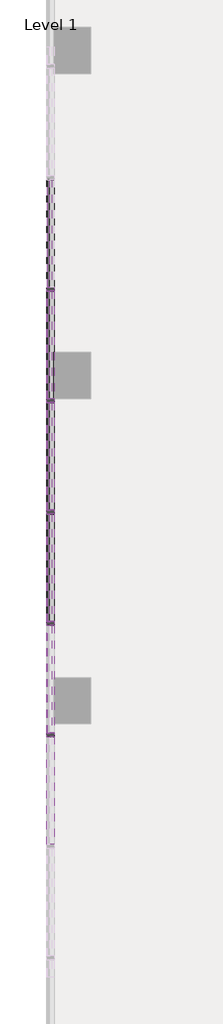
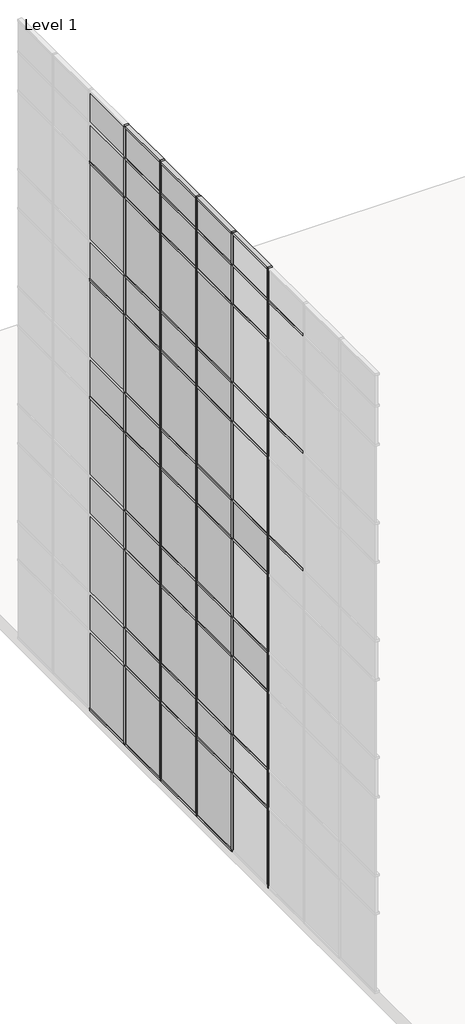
# One storey, part 3 of 23: 84 members, 46 plates.
"""IFC4 building model written with IfcOpenShell, lengths in millimetres."""

from ifc_helpers import new_model, si_unit, origin, place, context, project, spatial, transform, mapped, element, save
from components import member_f92b8aa2, member_810865a4, member_6d5c3e5e, member_9764dd38, system_panel_glazed_14c75400, system_panel_solid_5dfe6f83, system_panel_solid_e25e2004, system_panel_solid_b7551183

model = new_model("IFC4")

# Units and contexts
model_context = context("Model", 3, world=origin())
ifc_project = project(units=[si_unit("LENGTHUNIT", "METRE", prefix="MILLI")], contexts=[model_context])

# Site, building, storey
site = spatial("IfcSite", under=ifc_project)
building = spatial("IfcBuilding", under=site)
storey = spatial("IfcBuildingStorey", under=building, Name="Level 1", Elevation=0.0)

# Members
placement = place(None, origin())
member_shape = member_f92b8aa2(model_context)
element("IfcMember", 1, ObjectType="Rectangular Mullion : 2.5\" x 5\" rectangular", at=placement, inside=storey, context=model_context, shape_type="MappedRepresentation", body=[
    mapped(member_shape, transform((-68724.2599961, -14928.1853492, 18288.0), x_axis=(0.0, 1.0, 0.0), y_axis=(1.0, 0.0, 0.0), z_axis=(0.0, 0.0, -1.0))),
])
element("IfcMember", 2, ObjectType="Rectangular Mullion : 2.5\" x 5\" rectangular", at=placement, inside=storey, context=model_context, shape_type="MappedRepresentation", body=[
    mapped(member_shape, transform((-68724.2599961, -13099.3853492, 18288.0), x_axis=(0.0, 1.0, 0.0), y_axis=(1.0, 0.0, 0.0), z_axis=(0.0, 0.0, -1.0))),
])
element("IfcMember", 3, ObjectType="Rectangular Mullion : 2.5\" x 5\" rectangular", at=placement, inside=storey, context=model_context, shape_type="MappedRepresentation", body=[
    mapped(member_shape, transform((-68724.2599961, -11270.5853492, 18288.0), x_axis=(0.0, 1.0, 0.0), y_axis=(1.0, 0.0, 0.0), z_axis=(0.0, 0.0, -1.0))),
])
element("IfcMember", 4, ObjectType="Rectangular Mullion : 2.5\" x 5\" rectangular", at=placement, inside=storey, context=model_context, shape_type="MappedRepresentation", body=[
    mapped(member_shape, transform((-68724.2599961, -9441.7853492, 18288.0), x_axis=(0.0, 1.0, 0.0), y_axis=(1.0, 0.0, 0.0), z_axis=(0.0, 0.0, -1.0))),
])
element("IfcMember", 5, ObjectType="Rectangular Mullion : 2.5\" x 5\" rectangular", at=placement, inside=storey, context=model_context, shape_type="MappedRepresentation", body=[
    mapped(member_shape, transform((-68724.2599961, -7612.9853492, 18288.0), x_axis=(0.0, 1.0, 0.0), y_axis=(1.0, 0.0, 0.0), z_axis=(0.0, 0.0, -1.0))),
])
member_2_shape = member_810865a4(model_context)
element("IfcMember", 6, ObjectType="Rectangular Mullion : 2.5\" x 5\" rectangular", at=placement, inside=storey, context=model_context, shape_type="MappedRepresentation", body=[
    mapped(member_2_shape, transform((-68724.2599961, -14928.1853492, 3657.6), x_axis=(0.0, 1.0, 0.0), y_axis=(1.0, 0.0, 0.0), z_axis=(0.0, 0.0, -1.0))),
])
element("IfcMember", 7, ObjectType="Rectangular Mullion : 2.5\" x 5\" rectangular", at=placement, inside=storey, context=model_context, shape_type="MappedRepresentation", body=[
    mapped(member_2_shape, transform((-68724.2599961, -13099.3853492, 3657.6), x_axis=(0.0, 1.0, 0.0), y_axis=(1.0, 0.0, 0.0), z_axis=(0.0, 0.0, -1.0))),
])
element("IfcMember", 8, ObjectType="Rectangular Mullion : 2.5\" x 5\" rectangular", at=placement, inside=storey, context=model_context, shape_type="MappedRepresentation", body=[
    mapped(member_2_shape, transform((-68724.2599961, -11270.5853492, 3657.6), x_axis=(0.0, 1.0, 0.0), y_axis=(1.0, 0.0, 0.0), z_axis=(0.0, 0.0, -1.0))),
])
element("IfcMember", 9, ObjectType="Rectangular Mullion : 2.5\" x 5\" rectangular", at=placement, inside=storey, context=model_context, shape_type="MappedRepresentation", body=[
    mapped(member_2_shape, transform((-68724.2599961, -9441.7853492, 3657.6), x_axis=(0.0, 1.0, 0.0), y_axis=(1.0, 0.0, 0.0), z_axis=(0.0, 0.0, -1.0))),
])
element("IfcMember", 10, ObjectType="Rectangular Mullion : 2.5\" x 5\" rectangular", at=placement, inside=storey, context=model_context, shape_type="MappedRepresentation", body=[
    mapped(member_2_shape, transform((-68724.2599961, -7612.9853492, 3657.6), x_axis=(0.0, 1.0, 0.0), y_axis=(1.0, 0.0, 0.0), z_axis=(0.0, 0.0, -1.0))),
])
element("IfcMember", 11, ObjectType="Rectangular Mullion : 2.5\" x 5\" rectangular", at=placement, inside=storey, context=model_context, shape_type="MappedRepresentation", body=[
    mapped(member_2_shape, transform((-68724.2599961, -14928.1853492, 7315.2), x_axis=(0.0, 1.0, 0.0), y_axis=(1.0, 0.0, 0.0), z_axis=(0.0, 0.0, -1.0))),
])
element("IfcMember", 12, ObjectType="Rectangular Mullion : 2.5\" x 5\" rectangular", at=placement, inside=storey, context=model_context, shape_type="MappedRepresentation", body=[
    mapped(member_2_shape, transform((-68724.2599961, -13099.3853492, 7315.2), x_axis=(0.0, 1.0, 0.0), y_axis=(1.0, 0.0, 0.0), z_axis=(0.0, 0.0, -1.0))),
])
element("IfcMember", 13, ObjectType="Rectangular Mullion : 2.5\" x 5\" rectangular", at=placement, inside=storey, context=model_context, shape_type="MappedRepresentation", body=[
    mapped(member_2_shape, transform((-68724.2599961, -11270.5853492, 7315.2), x_axis=(0.0, 1.0, 0.0), y_axis=(1.0, 0.0, 0.0), z_axis=(0.0, 0.0, -1.0))),
])
element("IfcMember", 14, ObjectType="Rectangular Mullion : 2.5\" x 5\" rectangular", at=placement, inside=storey, context=model_context, shape_type="MappedRepresentation", body=[
    mapped(member_2_shape, transform((-68724.2599961, -9441.7853492, 7315.2), x_axis=(0.0, 1.0, 0.0), y_axis=(1.0, 0.0, 0.0), z_axis=(0.0, 0.0, -1.0))),
])
element("IfcMember", 15, ObjectType="Rectangular Mullion : 2.5\" x 5\" rectangular", at=placement, inside=storey, context=model_context, shape_type="MappedRepresentation", body=[
    mapped(member_2_shape, transform((-68724.2599961, -7612.9853492, 7315.2), x_axis=(0.0, 1.0, 0.0), y_axis=(1.0, 0.0, 0.0), z_axis=(0.0, 0.0, -1.0))),
])
element("IfcMember", 16, ObjectType="Rectangular Mullion : 2.5\" x 5\" rectangular", at=placement, inside=storey, context=model_context, shape_type="MappedRepresentation", body=[
    mapped(member_2_shape, transform((-68724.2599961, -14928.1853492, 10972.8), x_axis=(0.0, 1.0, 0.0), y_axis=(1.0, 0.0, 0.0), z_axis=(0.0, 0.0, -1.0))),
])
element("IfcMember", 17, ObjectType="Rectangular Mullion : 2.5\" x 5\" rectangular", at=placement, inside=storey, context=model_context, shape_type="MappedRepresentation", body=[
    mapped(member_2_shape, transform((-68724.2599961, -13099.3853492, 10972.8), x_axis=(0.0, 1.0, 0.0), y_axis=(1.0, 0.0, 0.0), z_axis=(0.0, 0.0, -1.0))),
])
element("IfcMember", 18, ObjectType="Rectangular Mullion : 2.5\" x 5\" rectangular", at=placement, inside=storey, context=model_context, shape_type="MappedRepresentation", body=[
    mapped(member_2_shape, transform((-68724.2599961, -11270.5853492, 10972.8), x_axis=(0.0, 1.0, 0.0), y_axis=(1.0, 0.0, 0.0), z_axis=(0.0, 0.0, -1.0))),
])
element("IfcMember", 19, ObjectType="Rectangular Mullion : 2.5\" x 5\" rectangular", at=placement, inside=storey, context=model_context, shape_type="MappedRepresentation", body=[
    mapped(member_2_shape, transform((-68724.2599961, -9441.7853492, 10972.8), x_axis=(0.0, 1.0, 0.0), y_axis=(1.0, 0.0, 0.0), z_axis=(0.0, 0.0, -1.0))),
])
element("IfcMember", 20, ObjectType="Rectangular Mullion : 2.5\" x 5\" rectangular", at=placement, inside=storey, context=model_context, shape_type="MappedRepresentation", body=[
    mapped(member_2_shape, transform((-68724.2599961, -7612.9853492, 10972.8), x_axis=(0.0, 1.0, 0.0), y_axis=(1.0, 0.0, 0.0), z_axis=(0.0, 0.0, -1.0))),
])
element("IfcMember", 21, ObjectType="Rectangular Mullion : 2.5\" x 5\" rectangular", at=placement, inside=storey, context=model_context, shape_type="MappedRepresentation", body=[
    mapped(member_2_shape, transform((-68724.2599961, -14928.1853492, 14630.4), x_axis=(0.0, 1.0, 0.0), y_axis=(1.0, 0.0, 0.0), z_axis=(0.0, 0.0, -1.0))),
])
element("IfcMember", 22, ObjectType="Rectangular Mullion : 2.5\" x 5\" rectangular", at=placement, inside=storey, context=model_context, shape_type="MappedRepresentation", body=[
    mapped(member_2_shape, transform((-68724.2599961, -13099.3853492, 14630.4), x_axis=(0.0, 1.0, 0.0), y_axis=(1.0, 0.0, 0.0), z_axis=(0.0, 0.0, -1.0))),
])
element("IfcMember", 23, ObjectType="Rectangular Mullion : 2.5\" x 5\" rectangular", at=placement, inside=storey, context=model_context, shape_type="MappedRepresentation", body=[
    mapped(member_2_shape, transform((-68724.2599961, -11270.5853492, 14630.4), x_axis=(0.0, 1.0, 0.0), y_axis=(1.0, 0.0, 0.0), z_axis=(0.0, 0.0, -1.0))),
])
element("IfcMember", 24, ObjectType="Rectangular Mullion : 2.5\" x 5\" rectangular", at=placement, inside=storey, context=model_context, shape_type="MappedRepresentation", body=[
    mapped(member_2_shape, transform((-68724.2599961, -9441.7853492, 14630.4), x_axis=(0.0, 1.0, 0.0), y_axis=(1.0, 0.0, 0.0), z_axis=(0.0, 0.0, -1.0))),
])
element("IfcMember", 25, ObjectType="Rectangular Mullion : 2.5\" x 5\" rectangular", at=placement, inside=storey, context=model_context, shape_type="MappedRepresentation", body=[
    mapped(member_2_shape, transform((-68724.2599961, -7612.9853492, 14630.4), x_axis=(0.0, 1.0, 0.0), y_axis=(1.0, 0.0, 0.0), z_axis=(0.0, 0.0, -1.0))),
])
member_3_shape = member_6d5c3e5e(model_context)
element("IfcMember", 26, ObjectType="Rectangular Mullion : 2.5\" x 5\" rectangular", at=placement, inside=storey, context=model_context, shape_type="MappedRepresentation", body=[
    mapped(member_3_shape, transform((-68724.2599961, -13131.1353492, 19304.0), x_axis=(0.0, 0.0, 1.0), y_axis=(1.0, 0.0, 0.0), z_axis=(0.0, 1.0, 0.0))),
])
element("IfcMember", 27, ObjectType="Rectangular Mullion : 2.5\" x 5\" rectangular", at=placement, inside=storey, context=model_context, shape_type="MappedRepresentation", body=[
    mapped(member_3_shape, transform((-68724.2599961, -11302.3353492, 19304.0), x_axis=(0.0, 0.0, 1.0), y_axis=(1.0, 0.0, 0.0), z_axis=(0.0, 1.0, 0.0))),
])
element("IfcMember", 28, ObjectType="Rectangular Mullion : 2.5\" x 5\" rectangular", at=placement, inside=storey, context=model_context, shape_type="MappedRepresentation", body=[
    mapped(member_3_shape, transform((-68724.2599961, -9473.5353492, 19304.0), x_axis=(0.0, 0.0, 1.0), y_axis=(1.0, 0.0, 0.0), z_axis=(0.0, 1.0, 0.0))),
])
element("IfcMember", 29, ObjectType="Rectangular Mullion : 2.5\" x 5\" rectangular", at=placement, inside=storey, context=model_context, shape_type="MappedRepresentation", body=[
    mapped(member_3_shape, transform((-68724.2599961, -7644.7353492, 19304.0), x_axis=(0.0, 0.0, 1.0), y_axis=(1.0, 0.0, 0.0), z_axis=(0.0, 1.0, 0.0))),
])
member_4_shape = member_9764dd38(model_context)
element("IfcMember", 30, ObjectType="Rectangular Mullion : 2.5\" x 5\" rectangular", at=placement, inside=storey, context=model_context, shape_type="MappedRepresentation", body=[
    mapped(member_4_shape, transform((-68724.2599961, -5815.9353492, 17068.8), x_axis=(0.0, 0.0, 1.0), y_axis=(1.0, 0.0, 0.0), z_axis=(0.0, 1.0, 0.0))),
])
element("IfcMember", 31, ObjectType="Rectangular Mullion : 2.5\" x 5\" rectangular", at=placement, inside=storey, context=model_context, shape_type="MappedRepresentation", body=[
    mapped(member_4_shape, transform((-68724.2599961, -7644.7353492, 17068.8), x_axis=(0.0, 0.0, 1.0), y_axis=(1.0, 0.0, 0.0), z_axis=(0.0, 1.0, 0.0))),
])
element("IfcMember", 32, ObjectType="Rectangular Mullion : 2.5\" x 5\" rectangular", at=placement, inside=storey, context=model_context, shape_type="MappedRepresentation", body=[
    mapped(member_4_shape, transform((-68724.2599961, -9473.5353492, 17068.8), x_axis=(0.0, 0.0, 1.0), y_axis=(1.0, 0.0, 0.0), z_axis=(0.0, 1.0, 0.0))),
])
element("IfcMember", 33, ObjectType="Rectangular Mullion : 2.5\" x 5\" rectangular", at=placement, inside=storey, context=model_context, shape_type="MappedRepresentation", body=[
    mapped(member_4_shape, transform((-68724.2599961, -11302.3353492, 17068.8), x_axis=(0.0, 0.0, 1.0), y_axis=(1.0, 0.0, 0.0), z_axis=(0.0, 1.0, 0.0))),
])
element("IfcMember", 34, ObjectType="Rectangular Mullion : 2.5\" x 5\" rectangular", at=placement, inside=storey, context=model_context, shape_type="MappedRepresentation", body=[
    mapped(member_4_shape, transform((-68724.2599961, -13131.1353492, 17068.8), x_axis=(0.0, 0.0, 1.0), y_axis=(1.0, 0.0, 0.0), z_axis=(0.0, 1.0, 0.0))),
])
element("IfcMember", 35, ObjectType="Rectangular Mullion : 2.5\" x 5\" rectangular", at=placement, inside=storey, context=model_context, shape_type="MappedRepresentation", body=[
    mapped(member_4_shape, transform((-68724.2599961, -5815.9353492, 13411.2), x_axis=(0.0, 0.0, 1.0), y_axis=(1.0, 0.0, 0.0), z_axis=(0.0, 1.0, 0.0))),
])
element("IfcMember", 36, ObjectType="Rectangular Mullion : 2.5\" x 5\" rectangular", at=placement, inside=storey, context=model_context, shape_type="MappedRepresentation", body=[
    mapped(member_4_shape, transform((-68724.2599961, -7644.7353492, 13411.2), x_axis=(0.0, 0.0, 1.0), y_axis=(1.0, 0.0, 0.0), z_axis=(0.0, 1.0, 0.0))),
])
element("IfcMember", 37, ObjectType="Rectangular Mullion : 2.5\" x 5\" rectangular", at=placement, inside=storey, context=model_context, shape_type="MappedRepresentation", body=[
    mapped(member_4_shape, transform((-68724.2599961, -9473.5353492, 13411.2), x_axis=(0.0, 0.0, 1.0), y_axis=(1.0, 0.0, 0.0), z_axis=(0.0, 1.0, 0.0))),
])
element("IfcMember", 38, ObjectType="Rectangular Mullion : 2.5\" x 5\" rectangular", at=placement, inside=storey, context=model_context, shape_type="MappedRepresentation", body=[
    mapped(member_4_shape, transform((-68724.2599961, -11302.3353492, 13411.2), x_axis=(0.0, 0.0, 1.0), y_axis=(1.0, 0.0, 0.0), z_axis=(0.0, 1.0, 0.0))),
])
element("IfcMember", 39, ObjectType="Rectangular Mullion : 2.5\" x 5\" rectangular", at=placement, inside=storey, context=model_context, shape_type="MappedRepresentation", body=[
    mapped(member_4_shape, transform((-68724.2599961, -13131.1353492, 13411.2), x_axis=(0.0, 0.0, 1.0), y_axis=(1.0, 0.0, 0.0), z_axis=(0.0, 1.0, 0.0))),
])
element("IfcMember", 40, ObjectType="Rectangular Mullion : 2.5\" x 5\" rectangular", at=placement, inside=storey, context=model_context, shape_type="MappedRepresentation", body=[
    mapped(member_4_shape, transform((-68724.2599961, -5815.9353492, 9753.6), x_axis=(0.0, 0.0, 1.0), y_axis=(1.0, 0.0, 0.0), z_axis=(0.0, 1.0, 0.0))),
])
element("IfcMember", 41, ObjectType="Rectangular Mullion : 2.5\" x 5\" rectangular", at=placement, inside=storey, context=model_context, shape_type="MappedRepresentation", body=[
    mapped(member_4_shape, transform((-68724.2599961, -7644.7353492, 9753.6), x_axis=(0.0, 0.0, 1.0), y_axis=(1.0, 0.0, 0.0), z_axis=(0.0, 1.0, 0.0))),
])
element("IfcMember", 42, ObjectType="Rectangular Mullion : 2.5\" x 5\" rectangular", at=placement, inside=storey, context=model_context, shape_type="MappedRepresentation", body=[
    mapped(member_4_shape, transform((-68724.2599961, -9473.5353492, 9753.6), x_axis=(0.0, 0.0, 1.0), y_axis=(1.0, 0.0, 0.0), z_axis=(0.0, 1.0, 0.0))),
])
element("IfcMember", 43, ObjectType="Rectangular Mullion : 2.5\" x 5\" rectangular", at=placement, inside=storey, context=model_context, shape_type="MappedRepresentation", body=[
    mapped(member_4_shape, transform((-68724.2599961, -11302.3353492, 9753.6), x_axis=(0.0, 0.0, 1.0), y_axis=(1.0, 0.0, 0.0), z_axis=(0.0, 1.0, 0.0))),
])
element("IfcMember", 44, ObjectType="Rectangular Mullion : 2.5\" x 5\" rectangular", at=placement, inside=storey, context=model_context, shape_type="MappedRepresentation", body=[
    mapped(member_4_shape, transform((-68724.2599961, -13131.1353492, 9753.6), x_axis=(0.0, 0.0, 1.0), y_axis=(1.0, 0.0, 0.0), z_axis=(0.0, 1.0, 0.0))),
])
element("IfcMember", 45, ObjectType="Rectangular Mullion : 2.5\" x 5\" rectangular", at=placement, inside=storey, context=model_context, shape_type="MappedRepresentation", body=[
    mapped(member_4_shape, transform((-68724.2599961, -7644.7353492, 6096.0), x_axis=(0.0, 0.0, 1.0), y_axis=(1.0, 0.0, 0.0), z_axis=(0.0, 1.0, 0.0))),
])
element("IfcMember", 46, ObjectType="Rectangular Mullion : 2.5\" x 5\" rectangular", at=placement, inside=storey, context=model_context, shape_type="MappedRepresentation", body=[
    mapped(member_4_shape, transform((-68724.2599961, -9473.5353492, 6096.0), x_axis=(0.0, 0.0, 1.0), y_axis=(1.0, 0.0, 0.0), z_axis=(0.0, 1.0, 0.0))),
])
element("IfcMember", 47, ObjectType="Rectangular Mullion : 2.5\" x 5\" rectangular", at=placement, inside=storey, context=model_context, shape_type="MappedRepresentation", body=[
    mapped(member_4_shape, transform((-68724.2599961, -11302.3353492, 6096.0), x_axis=(0.0, 0.0, 1.0), y_axis=(1.0, 0.0, 0.0), z_axis=(0.0, 1.0, 0.0))),
])
element("IfcMember", 48, ObjectType="Rectangular Mullion : 2.5\" x 5\" rectangular", at=placement, inside=storey, context=model_context, shape_type="MappedRepresentation", body=[
    mapped(member_4_shape, transform((-68724.2599961, -13131.1353492, 6096.0), x_axis=(0.0, 0.0, 1.0), y_axis=(1.0, 0.0, 0.0), z_axis=(0.0, 1.0, 0.0))),
])
element("IfcMember", 49, ObjectType="Rectangular Mullion : 2.5\" x 5\" rectangular", at=placement, inside=storey, context=model_context, shape_type="MappedRepresentation", body=[
    mapped(member_4_shape, transform((-68724.2599961, -7644.7353492, 2470.15), x_axis=(0.0, 0.0, 1.0), y_axis=(1.0, 0.0, 0.0), z_axis=(0.0, 1.0, 0.0))),
])
element("IfcMember", 50, ObjectType="Rectangular Mullion : 2.5\" x 5\" rectangular", at=placement, inside=storey, context=model_context, shape_type="MappedRepresentation", body=[
    mapped(member_4_shape, transform((-68724.2599961, -9473.5353492, 2470.15), x_axis=(0.0, 0.0, 1.0), y_axis=(1.0, 0.0, 0.0), z_axis=(0.0, 1.0, 0.0))),
])
element("IfcMember", 51, ObjectType="Rectangular Mullion : 2.5\" x 5\" rectangular", at=placement, inside=storey, context=model_context, shape_type="MappedRepresentation", body=[
    mapped(member_4_shape, transform((-68724.2599961, -11302.3353492, 2470.15), x_axis=(0.0, 0.0, 1.0), y_axis=(1.0, 0.0, 0.0), z_axis=(0.0, 1.0, 0.0))),
])
element("IfcMember", 52, ObjectType="Rectangular Mullion : 2.5\" x 5\" rectangular", at=placement, inside=storey, context=model_context, shape_type="MappedRepresentation", body=[
    mapped(member_4_shape, transform((-68724.2599961, -13131.1353492, 2470.15), x_axis=(0.0, 0.0, 1.0), y_axis=(1.0, 0.0, 0.0), z_axis=(0.0, 1.0, 0.0))),
])
element("IfcMember", 53, ObjectType="Rectangular Mullion : 2.5\" x 5\" rectangular", at=placement, inside=storey, context=model_context, shape_type="MappedRepresentation", body=[
    mapped(member_2_shape, transform((-68724.2599961, -14928.1853492, 0.0), x_axis=(0.0, 1.0, 0.0), y_axis=(1.0, 0.0, 0.0), z_axis=(0.0, 0.0, -1.0))),
])
element("IfcMember", 54, ObjectType="Rectangular Mullion : 2.5\" x 5\" rectangular", at=placement, inside=storey, context=model_context, shape_type="MappedRepresentation", body=[
    mapped(member_2_shape, transform((-68724.2599961, -13099.3853492, 0.0), x_axis=(0.0, 1.0, 0.0), y_axis=(1.0, 0.0, 0.0), z_axis=(0.0, 0.0, -1.0))),
])
element("IfcMember", 55, ObjectType="Rectangular Mullion : 2.5\" x 5\" rectangular", at=placement, inside=storey, context=model_context, shape_type="MappedRepresentation", body=[
    mapped(member_2_shape, transform((-68724.2599961, -11270.5853492, 0.0), x_axis=(0.0, 1.0, 0.0), y_axis=(1.0, 0.0, 0.0), z_axis=(0.0, 0.0, -1.0))),
])
element("IfcMember", 56, ObjectType="Rectangular Mullion : 2.5\" x 5\" rectangular", at=placement, inside=storey, context=model_context, shape_type="MappedRepresentation", body=[
    mapped(member_2_shape, transform((-68724.2599961, -9441.7853492, 0.0), x_axis=(0.0, 1.0, 0.0), y_axis=(1.0, 0.0, 0.0), z_axis=(0.0, 0.0, -1.0))),
])
element("IfcMember", 57, ObjectType="Rectangular Mullion : 2.5\" x 5\" rectangular", at=placement, inside=storey, context=model_context, shape_type="MappedRepresentation", body=[
    mapped(member_2_shape, transform((-68724.2599961, -7612.9853492, 0.0), x_axis=(0.0, 1.0, 0.0), y_axis=(1.0, 0.0, 0.0), z_axis=(0.0, 0.0, -1.0))),
])
element("IfcMember", 58, ObjectType="Rectangular Mullion : 2.5\" x 5\" rectangular", at=placement, inside=storey, context=model_context, shape_type="MappedRepresentation", body=[
    mapped(member_3_shape, transform((-68724.2599961, -13067.6353492, 0.0), x_axis=(0.0, 0.0, -1.0), y_axis=(1.0, 0.0, 0.0), z_axis=(0.0, -1.0, 0.0))),
])
element("IfcMember", 59, ObjectType="Rectangular Mullion : 2.5\" x 5\" rectangular", at=placement, inside=storey, context=model_context, shape_type="MappedRepresentation", body=[
    mapped(member_3_shape, transform((-68724.2599961, -11238.8353492, 0.0), x_axis=(0.0, 0.0, -1.0), y_axis=(1.0, 0.0, 0.0), z_axis=(0.0, -1.0, 0.0))),
])
element("IfcMember", 60, ObjectType="Rectangular Mullion : 2.5\" x 5\" rectangular", at=placement, inside=storey, context=model_context, shape_type="MappedRepresentation", body=[
    mapped(member_3_shape, transform((-68724.2599961, -9410.0353492, 0.0), x_axis=(0.0, 0.0, -1.0), y_axis=(1.0, 0.0, 0.0), z_axis=(0.0, -1.0, 0.0))),
])
element("IfcMember", 61, ObjectType="Rectangular Mullion : 2.5\" x 5\" rectangular", at=placement, inside=storey, context=model_context, shape_type="MappedRepresentation", body=[
    mapped(member_3_shape, transform((-68724.2599961, -7581.2353492, 0.0), x_axis=(0.0, 0.0, -1.0), y_axis=(1.0, 0.0, 0.0), z_axis=(0.0, -1.0, 0.0))),
])
element("IfcMember", 62, ObjectType="Rectangular Mullion : 2.5\" x 5\" rectangular", at=placement, inside=storey, context=model_context, shape_type="MappedRepresentation", body=[
    mapped(member_4_shape, transform((-68724.2599961, -13131.1353492, 3657.6), x_axis=(0.0, 0.0, 1.0), y_axis=(1.0, 0.0, 0.0), z_axis=(0.0, 1.0, 0.0))),
])
element("IfcMember", 63, ObjectType="Rectangular Mullion : 2.5\" x 5\" rectangular", at=placement, inside=storey, context=model_context, shape_type="MappedRepresentation", body=[
    mapped(member_4_shape, transform((-68724.2599961, -11302.3353492, 3657.6), x_axis=(0.0, 0.0, 1.0), y_axis=(1.0, 0.0, 0.0), z_axis=(0.0, 1.0, 0.0))),
])
element("IfcMember", 64, ObjectType="Rectangular Mullion : 2.5\" x 5\" rectangular", at=placement, inside=storey, context=model_context, shape_type="MappedRepresentation", body=[
    mapped(member_4_shape, transform((-68724.2599961, -9473.5353492, 3657.6), x_axis=(0.0, 0.0, 1.0), y_axis=(1.0, 0.0, 0.0), z_axis=(0.0, 1.0, 0.0))),
])
element("IfcMember", 65, ObjectType="Rectangular Mullion : 2.5\" x 5\" rectangular", at=placement, inside=storey, context=model_context, shape_type="MappedRepresentation", body=[
    mapped(member_4_shape, transform((-68724.2599961, -7644.7353492, 3657.6), x_axis=(0.0, 0.0, 1.0), y_axis=(1.0, 0.0, 0.0), z_axis=(0.0, 1.0, 0.0))),
])
element("IfcMember", 66, ObjectType="Rectangular Mullion : 2.5\" x 5\" rectangular", at=placement, inside=storey, context=model_context, shape_type="MappedRepresentation", body=[
    mapped(member_4_shape, transform((-68724.2599961, -13131.1353492, 7315.2), x_axis=(0.0, 0.0, 1.0), y_axis=(1.0, 0.0, 0.0), z_axis=(0.0, 1.0, 0.0))),
])
element("IfcMember", 67, ObjectType="Rectangular Mullion : 2.5\" x 5\" rectangular", at=placement, inside=storey, context=model_context, shape_type="MappedRepresentation", body=[
    mapped(member_4_shape, transform((-68724.2599961, -11302.3353492, 7315.2), x_axis=(0.0, 0.0, 1.0), y_axis=(1.0, 0.0, 0.0), z_axis=(0.0, 1.0, 0.0))),
])
element("IfcMember", 68, ObjectType="Rectangular Mullion : 2.5\" x 5\" rectangular", at=placement, inside=storey, context=model_context, shape_type="MappedRepresentation", body=[
    mapped(member_4_shape, transform((-68724.2599961, -9473.5353492, 7315.2), x_axis=(0.0, 0.0, 1.0), y_axis=(1.0, 0.0, 0.0), z_axis=(0.0, 1.0, 0.0))),
])
element("IfcMember", 69, ObjectType="Rectangular Mullion : 2.5\" x 5\" rectangular", at=placement, inside=storey, context=model_context, shape_type="MappedRepresentation", body=[
    mapped(member_4_shape, transform((-68724.2599961, -7644.7353492, 7315.2), x_axis=(0.0, 0.0, 1.0), y_axis=(1.0, 0.0, 0.0), z_axis=(0.0, 1.0, 0.0))),
])
element("IfcMember", 70, ObjectType="Rectangular Mullion : 2.5\" x 5\" rectangular", at=placement, inside=storey, context=model_context, shape_type="MappedRepresentation", body=[
    mapped(member_4_shape, transform((-68724.2599961, -14959.9353492, 10972.8), x_axis=(0.0, 0.0, 1.0), y_axis=(1.0, 0.0, 0.0), z_axis=(0.0, 1.0, 0.0))),
])
element("IfcMember", 71, ObjectType="Rectangular Mullion : 2.5\" x 5\" rectangular", at=placement, inside=storey, context=model_context, shape_type="MappedRepresentation", body=[
    mapped(member_4_shape, transform((-68724.2599961, -13131.1353492, 10972.8), x_axis=(0.0, 0.0, 1.0), y_axis=(1.0, 0.0, 0.0), z_axis=(0.0, 1.0, 0.0))),
])
element("IfcMember", 72, ObjectType="Rectangular Mullion : 2.5\" x 5\" rectangular", at=placement, inside=storey, context=model_context, shape_type="MappedRepresentation", body=[
    mapped(member_4_shape, transform((-68724.2599961, -11302.3353492, 10972.8), x_axis=(0.0, 0.0, 1.0), y_axis=(1.0, 0.0, 0.0), z_axis=(0.0, 1.0, 0.0))),
])
element("IfcMember", 73, ObjectType="Rectangular Mullion : 2.5\" x 5\" rectangular", at=placement, inside=storey, context=model_context, shape_type="MappedRepresentation", body=[
    mapped(member_4_shape, transform((-68724.2599961, -9473.5353492, 10972.8), x_axis=(0.0, 0.0, 1.0), y_axis=(1.0, 0.0, 0.0), z_axis=(0.0, 1.0, 0.0))),
])
element("IfcMember", 74, ObjectType="Rectangular Mullion : 2.5\" x 5\" rectangular", at=placement, inside=storey, context=model_context, shape_type="MappedRepresentation", body=[
    mapped(member_4_shape, transform((-68724.2599961, -7644.7353492, 10972.8), x_axis=(0.0, 0.0, 1.0), y_axis=(1.0, 0.0, 0.0), z_axis=(0.0, 1.0, 0.0))),
])
element("IfcMember", 75, ObjectType="Rectangular Mullion : 2.5\" x 5\" rectangular", at=placement, inside=storey, context=model_context, shape_type="MappedRepresentation", body=[
    mapped(member_4_shape, transform((-68724.2599961, -14959.9353492, 14630.4), x_axis=(0.0, 0.0, 1.0), y_axis=(1.0, 0.0, 0.0), z_axis=(0.0, 1.0, 0.0))),
])
element("IfcMember", 76, ObjectType="Rectangular Mullion : 2.5\" x 5\" rectangular", at=placement, inside=storey, context=model_context, shape_type="MappedRepresentation", body=[
    mapped(member_4_shape, transform((-68724.2599961, -13131.1353492, 14630.4), x_axis=(0.0, 0.0, 1.0), y_axis=(1.0, 0.0, 0.0), z_axis=(0.0, 1.0, 0.0))),
])
element("IfcMember", 77, ObjectType="Rectangular Mullion : 2.5\" x 5\" rectangular", at=placement, inside=storey, context=model_context, shape_type="MappedRepresentation", body=[
    mapped(member_4_shape, transform((-68724.2599961, -11302.3353492, 14630.4), x_axis=(0.0, 0.0, 1.0), y_axis=(1.0, 0.0, 0.0), z_axis=(0.0, 1.0, 0.0))),
])
element("IfcMember", 78, ObjectType="Rectangular Mullion : 2.5\" x 5\" rectangular", at=placement, inside=storey, context=model_context, shape_type="MappedRepresentation", body=[
    mapped(member_4_shape, transform((-68724.2599961, -9473.5353492, 14630.4), x_axis=(0.0, 0.0, 1.0), y_axis=(1.0, 0.0, 0.0), z_axis=(0.0, 1.0, 0.0))),
])
element("IfcMember", 79, ObjectType="Rectangular Mullion : 2.5\" x 5\" rectangular", at=placement, inside=storey, context=model_context, shape_type="MappedRepresentation", body=[
    mapped(member_4_shape, transform((-68724.2599961, -7644.7353492, 14630.4), x_axis=(0.0, 0.0, 1.0), y_axis=(1.0, 0.0, 0.0), z_axis=(0.0, 1.0, 0.0))),
])
element("IfcMember", 80, ObjectType="Rectangular Mullion : 2.5\" x 5\" rectangular", at=placement, inside=storey, context=model_context, shape_type="MappedRepresentation", body=[
    mapped(member_4_shape, transform((-68724.2599961, -14959.9353492, 18288.0), x_axis=(0.0, 0.0, 1.0), y_axis=(1.0, 0.0, 0.0), z_axis=(0.0, 1.0, 0.0))),
])
element("IfcMember", 81, ObjectType="Rectangular Mullion : 2.5\" x 5\" rectangular", at=placement, inside=storey, context=model_context, shape_type="MappedRepresentation", body=[
    mapped(member_4_shape, transform((-68724.2599961, -13131.1353492, 18288.0), x_axis=(0.0, 0.0, 1.0), y_axis=(1.0, 0.0, 0.0), z_axis=(0.0, 1.0, 0.0))),
])
element("IfcMember", 82, ObjectType="Rectangular Mullion : 2.5\" x 5\" rectangular", at=placement, inside=storey, context=model_context, shape_type="MappedRepresentation", body=[
    mapped(member_4_shape, transform((-68724.2599961, -11302.3353492, 18288.0), x_axis=(0.0, 0.0, 1.0), y_axis=(1.0, 0.0, 0.0), z_axis=(0.0, 1.0, 0.0))),
])
element("IfcMember", 83, ObjectType="Rectangular Mullion : 2.5\" x 5\" rectangular", at=placement, inside=storey, context=model_context, shape_type="MappedRepresentation", body=[
    mapped(member_4_shape, transform((-68724.2599961, -9473.5353492, 18288.0), x_axis=(0.0, 0.0, 1.0), y_axis=(1.0, 0.0, 0.0), z_axis=(0.0, 1.0, 0.0))),
])
element("IfcMember", 84, ObjectType="Rectangular Mullion : 2.5\" x 5\" rectangular", at=placement, inside=storey, context=model_context, shape_type="MappedRepresentation", body=[
    mapped(member_4_shape, transform((-68724.2599961, -7644.7353492, 18288.0), x_axis=(0.0, 0.0, 1.0), y_axis=(1.0, 0.0, 0.0), z_axis=(0.0, 1.0, 0.0))),
])

# Plates
system_panel_glazed_shape = system_panel_glazed_14c75400(model_context)
element("IfcPlate", 85, ObjectType="System Panel : Glazed", at=placement, inside=storey, context=model_context, shape_type="MappedRepresentation", body=[
    mapped(system_panel_glazed_shape, transform((-68724.2599961, -6698.5853492, 14662.15), x_axis=(0.0, 1.0, 0.0), y_axis=(-1.0, 0.0, 0.0), z_axis=(0.0, 0.0, 1.0))),
])
element("IfcPlate", 86, ObjectType="System Panel : Glazed", at=placement, inside=storey, context=model_context, shape_type="MappedRepresentation", body=[
    mapped(system_panel_glazed_shape, transform((-68724.2599961, -8527.3853492, 14662.15), x_axis=(0.0, 1.0, 0.0), y_axis=(-1.0, 0.0, 0.0), z_axis=(0.0, 0.0, 1.0))),
])
element("IfcPlate", 87, ObjectType="System Panel : Glazed", at=placement, inside=storey, context=model_context, shape_type="MappedRepresentation", body=[
    mapped(system_panel_glazed_shape, transform((-68724.2599961, -10356.1853492, 14662.15), x_axis=(0.0, 1.0, 0.0), y_axis=(-1.0, 0.0, 0.0), z_axis=(0.0, 0.0, 1.0))),
])
element("IfcPlate", 88, ObjectType="System Panel : Glazed", at=placement, inside=storey, context=model_context, shape_type="MappedRepresentation", body=[
    mapped(system_panel_glazed_shape, transform((-68724.2599961, -12184.9853492, 14662.15), x_axis=(0.0, 1.0, 0.0), y_axis=(-1.0, 0.0, 0.0), z_axis=(0.0, 0.0, 1.0))),
])
element("IfcPlate", 89, ObjectType="System Panel : Glazed", at=placement, inside=storey, context=model_context, shape_type="MappedRepresentation", body=[
    mapped(system_panel_glazed_shape, transform((-68724.2599961, -6698.5853492, 11004.55), x_axis=(0.0, 1.0, 0.0), y_axis=(-1.0, 0.0, 0.0), z_axis=(0.0, 0.0, 1.0))),
])
element("IfcPlate", 90, ObjectType="System Panel : Glazed", at=placement, inside=storey, context=model_context, shape_type="MappedRepresentation", body=[
    mapped(system_panel_glazed_shape, transform((-68724.2599961, -8527.3853492, 11004.55), x_axis=(0.0, 1.0, 0.0), y_axis=(-1.0, 0.0, 0.0), z_axis=(0.0, 0.0, 1.0))),
])
element("IfcPlate", 91, ObjectType="System Panel : Glazed", at=placement, inside=storey, context=model_context, shape_type="MappedRepresentation", body=[
    mapped(system_panel_glazed_shape, transform((-68724.2599961, -10356.1853492, 11004.55), x_axis=(0.0, 1.0, 0.0), y_axis=(-1.0, 0.0, 0.0), z_axis=(0.0, 0.0, 1.0))),
])
element("IfcPlate", 92, ObjectType="System Panel : Glazed", at=placement, inside=storey, context=model_context, shape_type="MappedRepresentation", body=[
    mapped(system_panel_glazed_shape, transform((-68724.2599961, -12184.9853492, 11004.55), x_axis=(0.0, 1.0, 0.0), y_axis=(-1.0, 0.0, 0.0), z_axis=(0.0, 0.0, 1.0))),
])
element("IfcPlate", 93, ObjectType="System Panel : Glazed", at=placement, inside=storey, context=model_context, shape_type="MappedRepresentation", body=[
    mapped(system_panel_glazed_shape, transform((-68724.2599961, -6698.5853492, 7346.95), x_axis=(0.0, 1.0, 0.0), y_axis=(-1.0, 0.0, 0.0), z_axis=(0.0, 0.0, 1.0))),
])
element("IfcPlate", 94, ObjectType="System Panel : Glazed", at=placement, inside=storey, context=model_context, shape_type="MappedRepresentation", body=[
    mapped(system_panel_glazed_shape, transform((-68724.2599961, -8527.3853492, 7346.95), x_axis=(0.0, 1.0, 0.0), y_axis=(-1.0, 0.0, 0.0), z_axis=(0.0, 0.0, 1.0))),
])
element("IfcPlate", 95, ObjectType="System Panel : Glazed", at=placement, inside=storey, context=model_context, shape_type="MappedRepresentation", body=[
    mapped(system_panel_glazed_shape, transform((-68724.2599961, -10356.1853492, 7346.95), x_axis=(0.0, 1.0, 0.0), y_axis=(-1.0, 0.0, 0.0), z_axis=(0.0, 0.0, 1.0))),
])
element("IfcPlate", 96, ObjectType="System Panel : Glazed", at=placement, inside=storey, context=model_context, shape_type="MappedRepresentation", body=[
    mapped(system_panel_glazed_shape, transform((-68724.2599961, -12184.9853492, 7346.95), x_axis=(0.0, 1.0, 0.0), y_axis=(-1.0, 0.0, 0.0), z_axis=(0.0, 0.0, 1.0))),
])
element("IfcPlate", 97, ObjectType="System Panel : Glazed", at=placement, inside=storey, context=model_context, shape_type="MappedRepresentation", body=[
    mapped(system_panel_glazed_shape, transform((-68724.2599961, -6698.5853492, 3689.35), x_axis=(0.0, 1.0, 0.0), y_axis=(-1.0, 0.0, 0.0), z_axis=(0.0, 0.0, 1.0))),
])
element("IfcPlate", 98, ObjectType="System Panel : Glazed", at=placement, inside=storey, context=model_context, shape_type="MappedRepresentation", body=[
    mapped(system_panel_glazed_shape, transform((-68724.2599961, -8527.3853492, 3689.35), x_axis=(0.0, 1.0, 0.0), y_axis=(-1.0, 0.0, 0.0), z_axis=(0.0, 0.0, 1.0))),
])
element("IfcPlate", 99, ObjectType="System Panel : Glazed", at=placement, inside=storey, context=model_context, shape_type="MappedRepresentation", body=[
    mapped(system_panel_glazed_shape, transform((-68724.2599961, -10356.1853492, 3689.35), x_axis=(0.0, 1.0, 0.0), y_axis=(-1.0, 0.0, 0.0), z_axis=(0.0, 0.0, 1.0))),
])
element("IfcPlate", 100, ObjectType="System Panel : Glazed", at=placement, inside=storey, context=model_context, shape_type="MappedRepresentation", body=[
    mapped(system_panel_glazed_shape, transform((-68724.2599961, -12184.9853492, 3689.35), x_axis=(0.0, 1.0, 0.0), y_axis=(-1.0, 0.0, 0.0), z_axis=(0.0, 0.0, 1.0))),
])
element("IfcPlate", 101, ObjectType="System Panel : Glazed", at=placement, inside=storey, context=model_context, shape_type="MappedRepresentation", body=[
    mapped(system_panel_glazed_shape, transform((-68724.2599961, -6698.5853492, 63.5), x_axis=(0.0, 1.0, 0.0), y_axis=(-1.0, 0.0, 0.0), z_axis=(0.0, 0.0, 1.0))),
])
element("IfcPlate", 102, ObjectType="System Panel : Glazed", at=placement, inside=storey, context=model_context, shape_type="MappedRepresentation", body=[
    mapped(system_panel_glazed_shape, transform((-68724.2599961, -8527.3853492, 63.5), x_axis=(0.0, 1.0, 0.0), y_axis=(-1.0, 0.0, 0.0), z_axis=(0.0, 0.0, 1.0))),
])
element("IfcPlate", 103, ObjectType="System Panel : Glazed", at=placement, inside=storey, context=model_context, shape_type="MappedRepresentation", body=[
    mapped(system_panel_glazed_shape, transform((-68724.2599961, -10356.1853492, 63.5), x_axis=(0.0, 1.0, 0.0), y_axis=(-1.0, 0.0, 0.0), z_axis=(0.0, 0.0, 1.0))),
])
element("IfcPlate", 104, ObjectType="System Panel : Glazed", at=placement, inside=storey, context=model_context, shape_type="MappedRepresentation", body=[
    mapped(system_panel_glazed_shape, transform((-68724.2599961, -12184.9853492, 63.5), x_axis=(0.0, 1.0, 0.0), y_axis=(-1.0, 0.0, 0.0), z_axis=(0.0, 0.0, 1.0))),
])
system_panel_solid_shape = system_panel_solid_5dfe6f83(model_context)
element("IfcPlate", 105, ObjectType="System Panel : Solid", at=placement, inside=storey, context=model_context, shape_type="MappedRepresentation", body=[
    mapped(system_panel_solid_shape, transform((-68724.2599961, -12184.9853492, 18319.75), x_axis=(0.0, 1.0, 0.0), y_axis=(-1.0, 0.0, 0.0), z_axis=(0.0, 0.0, 1.0))),
])
element("IfcPlate", 106, ObjectType="System Panel : Solid", at=placement, inside=storey, context=model_context, shape_type="MappedRepresentation", body=[
    mapped(system_panel_solid_shape, transform((-68724.2599961, -10356.1853492, 18319.75), x_axis=(0.0, 1.0, 0.0), y_axis=(-1.0, 0.0, 0.0), z_axis=(0.0, 0.0, 1.0))),
])
element("IfcPlate", 107, ObjectType="System Panel : Solid", at=placement, inside=storey, context=model_context, shape_type="MappedRepresentation", body=[
    mapped(system_panel_solid_shape, transform((-68724.2599961, -8527.3853492, 18319.75), x_axis=(0.0, 1.0, 0.0), y_axis=(-1.0, 0.0, 0.0), z_axis=(0.0, 0.0, 1.0))),
])
element("IfcPlate", 108, ObjectType="System Panel : Solid", at=placement, inside=storey, context=model_context, shape_type="MappedRepresentation", body=[
    mapped(system_panel_solid_shape, transform((-68724.2599961, -6698.5853492, 18319.75), x_axis=(0.0, 1.0, 0.0), y_axis=(-1.0, 0.0, 0.0), z_axis=(0.0, 0.0, 1.0))),
])
system_panel_solid_2_shape = system_panel_solid_e25e2004(model_context)
element("IfcPlate", 109, ObjectType="System Panel : Solid", at=placement, inside=storey, context=model_context, shape_type="MappedRepresentation", body=[
    mapped(system_panel_solid_2_shape, transform((-68724.2599961, -6698.5853492, 17100.55), x_axis=(0.0, 1.0, 0.0), y_axis=(-1.0, 0.0, 0.0), z_axis=(0.0, 0.0, 1.0))),
])
element("IfcPlate", 110, ObjectType="System Panel : Solid", at=placement, inside=storey, context=model_context, shape_type="MappedRepresentation", body=[
    mapped(system_panel_solid_2_shape, transform((-68724.2599961, -8527.3853492, 17100.55), x_axis=(0.0, 1.0, 0.0), y_axis=(-1.0, 0.0, 0.0), z_axis=(0.0, 0.0, 1.0))),
])
element("IfcPlate", 111, ObjectType="System Panel : Solid", at=placement, inside=storey, context=model_context, shape_type="MappedRepresentation", body=[
    mapped(system_panel_solid_2_shape, transform((-68724.2599961, -10356.1853492, 17100.55), x_axis=(0.0, 1.0, 0.0), y_axis=(-1.0, 0.0, 0.0), z_axis=(0.0, 0.0, 1.0))),
])
element("IfcPlate", 112, ObjectType="System Panel : Solid", at=placement, inside=storey, context=model_context, shape_type="MappedRepresentation", body=[
    mapped(system_panel_solid_2_shape, transform((-68724.2599961, -12184.9853492, 17100.55), x_axis=(0.0, 1.0, 0.0), y_axis=(-1.0, 0.0, 0.0), z_axis=(0.0, 0.0, 1.0))),
])
element("IfcPlate", 113, ObjectType="System Panel : Solid", at=placement, inside=storey, context=model_context, shape_type="MappedRepresentation", body=[
    mapped(system_panel_solid_2_shape, transform((-68724.2599961, -6698.5853492, 13442.95), x_axis=(0.0, 1.0, 0.0), y_axis=(-1.0, 0.0, 0.0), z_axis=(0.0, 0.0, 1.0))),
])
element("IfcPlate", 114, ObjectType="System Panel : Solid", at=placement, inside=storey, context=model_context, shape_type="MappedRepresentation", body=[
    mapped(system_panel_solid_2_shape, transform((-68724.2599961, -8527.3853492, 13442.95), x_axis=(0.0, 1.0, 0.0), y_axis=(-1.0, 0.0, 0.0), z_axis=(0.0, 0.0, 1.0))),
])
element("IfcPlate", 115, ObjectType="System Panel : Solid", at=placement, inside=storey, context=model_context, shape_type="MappedRepresentation", body=[
    mapped(system_panel_solid_2_shape, transform((-68724.2599961, -10356.1853492, 13442.95), x_axis=(0.0, 1.0, 0.0), y_axis=(-1.0, 0.0, 0.0), z_axis=(0.0, 0.0, 1.0))),
])
element("IfcPlate", 116, ObjectType="System Panel : Solid", at=placement, inside=storey, context=model_context, shape_type="MappedRepresentation", body=[
    mapped(system_panel_solid_2_shape, transform((-68724.2599961, -12184.9853492, 13442.95), x_axis=(0.0, 1.0, 0.0), y_axis=(-1.0, 0.0, 0.0), z_axis=(0.0, 0.0, 1.0))),
])
element("IfcPlate", 117, ObjectType="System Panel : Solid", at=placement, inside=storey, context=model_context, shape_type="MappedRepresentation", body=[
    mapped(system_panel_solid_2_shape, transform((-68724.2599961, -6698.5853492, 9785.35), x_axis=(0.0, 1.0, 0.0), y_axis=(-1.0, 0.0, 0.0), z_axis=(0.0, 0.0, 1.0))),
])
element("IfcPlate", 118, ObjectType="System Panel : Solid", at=placement, inside=storey, context=model_context, shape_type="MappedRepresentation", body=[
    mapped(system_panel_solid_2_shape, transform((-68724.2599961, -8527.3853492, 9785.35), x_axis=(0.0, 1.0, 0.0), y_axis=(-1.0, 0.0, 0.0), z_axis=(0.0, 0.0, 1.0))),
])
element("IfcPlate", 119, ObjectType="System Panel : Solid", at=placement, inside=storey, context=model_context, shape_type="MappedRepresentation", body=[
    mapped(system_panel_solid_2_shape, transform((-68724.2599961, -10356.1853492, 9785.35), x_axis=(0.0, 1.0, 0.0), y_axis=(-1.0, 0.0, 0.0), z_axis=(0.0, 0.0, 1.0))),
])
element("IfcPlate", 120, ObjectType="System Panel : Solid", at=placement, inside=storey, context=model_context, shape_type="MappedRepresentation", body=[
    mapped(system_panel_solid_2_shape, transform((-68724.2599961, -12184.9853492, 9785.35), x_axis=(0.0, 1.0, 0.0), y_axis=(-1.0, 0.0, 0.0), z_axis=(0.0, 0.0, 1.0))),
])
element("IfcPlate", 121, ObjectType="System Panel : Solid", at=placement, inside=storey, context=model_context, shape_type="MappedRepresentation", body=[
    mapped(system_panel_solid_2_shape, transform((-68724.2599961, -14013.7853492, 9785.35), x_axis=(0.0, 1.0, 0.0), y_axis=(-1.0, 0.0, 0.0), z_axis=(0.0, 0.0, 1.0))),
])
element("IfcPlate", 122, ObjectType="System Panel : Solid", at=placement, inside=storey, context=model_context, shape_type="MappedRepresentation", body=[
    mapped(system_panel_solid_2_shape, transform((-68724.2599961, -6698.5853492, 6127.75), x_axis=(0.0, 1.0, 0.0), y_axis=(-1.0, 0.0, 0.0), z_axis=(0.0, 0.0, 1.0))),
])
element("IfcPlate", 123, ObjectType="System Panel : Solid", at=placement, inside=storey, context=model_context, shape_type="MappedRepresentation", body=[
    mapped(system_panel_solid_2_shape, transform((-68724.2599961, -8527.3853492, 6127.75), x_axis=(0.0, 1.0, 0.0), y_axis=(-1.0, 0.0, 0.0), z_axis=(0.0, 0.0, 1.0))),
])
element("IfcPlate", 124, ObjectType="System Panel : Solid", at=placement, inside=storey, context=model_context, shape_type="MappedRepresentation", body=[
    mapped(system_panel_solid_2_shape, transform((-68724.2599961, -10356.1853492, 6127.75), x_axis=(0.0, 1.0, 0.0), y_axis=(-1.0, 0.0, 0.0), z_axis=(0.0, 0.0, 1.0))),
])
element("IfcPlate", 125, ObjectType="System Panel : Solid", at=placement, inside=storey, context=model_context, shape_type="MappedRepresentation", body=[
    mapped(system_panel_solid_2_shape, transform((-68724.2599961, -12184.9853492, 6127.75), x_axis=(0.0, 1.0, 0.0), y_axis=(-1.0, 0.0, 0.0), z_axis=(0.0, 0.0, 1.0))),
])
element("IfcPlate", 126, ObjectType="System Panel : Solid", at=placement, inside=storey, context=model_context, shape_type="MappedRepresentation", body=[
    mapped(system_panel_solid_2_shape, transform((-68724.2599961, -14013.7853492, 6127.75), x_axis=(0.0, 1.0, 0.0), y_axis=(-1.0, 0.0, 0.0), z_axis=(0.0, 0.0, 1.0))),
])
system_panel_solid_3_shape = system_panel_solid_b7551183(model_context)
element("IfcPlate", 127, ObjectType="System Panel : Solid", at=placement, inside=storey, context=model_context, shape_type="MappedRepresentation", body=[
    mapped(system_panel_solid_3_shape, transform((-68724.2599961, -6698.5853492, 2501.9), x_axis=(0.0, 1.0, 0.0), y_axis=(-1.0, 0.0, 0.0), z_axis=(0.0, 0.0, 1.0))),
])
element("IfcPlate", 128, ObjectType="System Panel : Solid", at=placement, inside=storey, context=model_context, shape_type="MappedRepresentation", body=[
    mapped(system_panel_solid_3_shape, transform((-68724.2599961, -8527.3853492, 2501.9), x_axis=(0.0, 1.0, 0.0), y_axis=(-1.0, 0.0, 0.0), z_axis=(0.0, 0.0, 1.0))),
])
element("IfcPlate", 129, ObjectType="System Panel : Solid", at=placement, inside=storey, context=model_context, shape_type="MappedRepresentation", body=[
    mapped(system_panel_solid_3_shape, transform((-68724.2599961, -10356.1853492, 2501.9), x_axis=(0.0, 1.0, 0.0), y_axis=(-1.0, 0.0, 0.0), z_axis=(0.0, 0.0, 1.0))),
])
element("IfcPlate", 130, ObjectType="System Panel : Solid", at=placement, inside=storey, context=model_context, shape_type="MappedRepresentation", body=[
    mapped(system_panel_solid_3_shape, transform((-68724.2599961, -12184.9853492, 2501.9), x_axis=(0.0, 1.0, 0.0), y_axis=(-1.0, 0.0, 0.0), z_axis=(0.0, 0.0, 1.0))),
])

save(model, "model.ifc")
